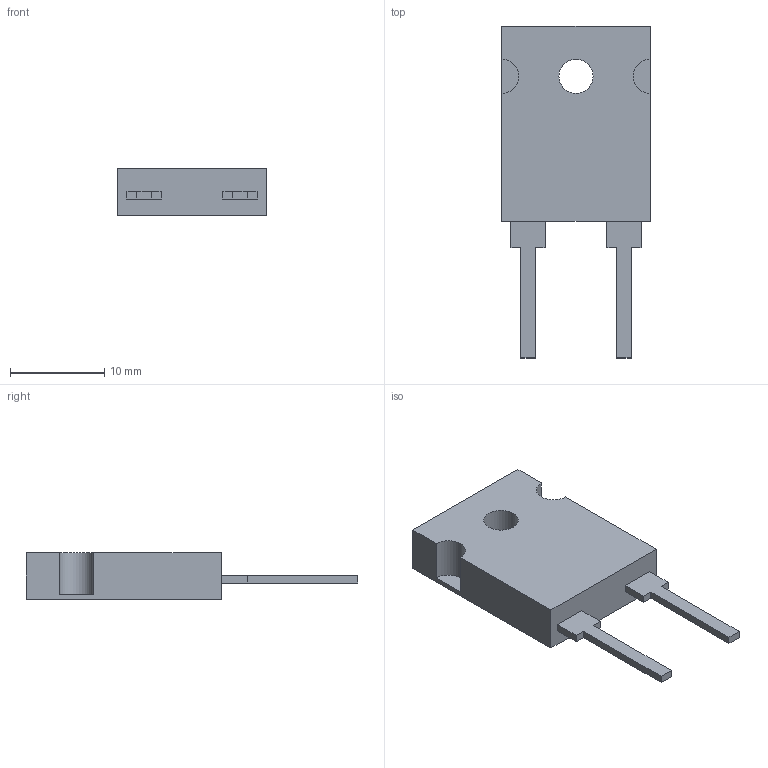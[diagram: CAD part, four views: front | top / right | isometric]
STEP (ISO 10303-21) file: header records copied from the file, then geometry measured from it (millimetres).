
FILE_DESCRIPTION(/* description */ (''),/* implementation_level */ '2;1');
FILE_NAME(/* name */ 'C:\Users\mulla\Documents\SEI Models\Inventor Files\TR\TR100_stp.stp',/* time_stamp */ '2019-07-09T20:12:08-04:00',/* author */ ('mulla'),/* organization */ (''),/* preprocessor_version */ 'ST-DEVELOPER v16.1',/* originating_system */ 'Autodesk Inventor 2016',/* authorisation */ '');
FILE_SCHEMA (('AUTOMOTIVE_DESIGN { 1 0 10303 214 3 1 1 }'));
Length unit declared in the file: millimetre
Products named in the file (1): TR100
Bounding box: 15.75 x 35.18 x 4.95 mm (x, y, z)
Volume: 1561.7 mm3; surface area: 1237.4 mm2
Topology: 3 solids, 3 shells, 31 faces, 75 edges, 50 vertices
Faces by surface type: plane 28, cylinder 3
Full cylindrical faces by diameter (mm): 3.63 x1
Entity records: 916 total; most frequent: CARTESIAN_POINT 156, ORIENTED_EDGE 148, DIRECTION 144, EDGE_CURVE 74, LINE 68, VECTOR 68, VERTEX_POINT 50, AXIS2_PLACEMENT_3D 38
